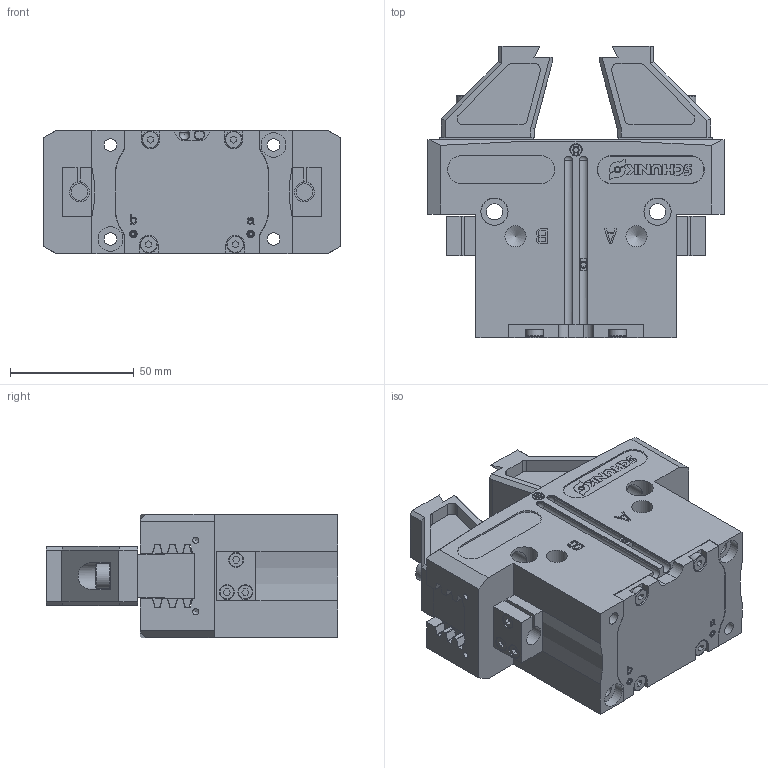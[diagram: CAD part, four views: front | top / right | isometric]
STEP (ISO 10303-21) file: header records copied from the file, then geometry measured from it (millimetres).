
FILE_DESCRIPTION (( 'STEP AP214' ), '1' );
FILE_NAME ('AS-96_WEBSITE.step', '2025-08-11T09:04:36', ( '' ), ( '' ), 'SwSTEP 2.0', 'SolidWorks 2024', '' );
FILE_SCHEMA (( 'AUTOMOTIVE_DESIGN' ));
Length unit declared in the file: inch
Products named in the file (11): SCHUNK-9949504 limit stop for MMS-P_WEBSITE; AS-96_WEBSITE; SCHUNK-5524036-Grundbacke PGN-plus-P 100-2_WEBSITE; SCHUNK-5524030 Deckel-PGN-plus-P 100_WEBSITE; SCHUNK-0318547 PGN-plus-P 100-2-AS, 000_WEBSITE; SCHUNK-5503506 Halter fuer NHS KL03_WEBSITE; AS-96-1_WEBSITE; SCHUNK-5524162 Abdeckblech-PGN-plus-P 100_WEBSITE; SCHUNK-9905503 Typenschild 11x43x0.3_WEBSITE; SCHUNK-5524039 Gehaeuse-PGN-plus-P 100-GKS_WEBSITE; M6X22MM.SHCS_WEBSITE_91290A328
Assembly tree (16 placements, depth 3):
  AS-96_WEBSITE
    SCHUNK-0318547 PGN-plus-P 100-2-AS, 000_WEBSITE
      SCHUNK-5524039 Gehaeuse-PGN-plus-P 100-GKS_WEBSITE
      SCHUNK-5524162 Abdeckblech-PGN-plus-P 100_WEBSITE
      SCHUNK-5524030 Deckel-PGN-plus-P 100_WEBSITE
      SCHUNK-9949504 limit stop for MMS-P_WEBSITE
      SCHUNK-9905503 Typenschild 11x43x0.3_WEBSITE
      SCHUNK-5503506 Halter fuer NHS KL03_WEBSITE  x2
      SCHUNK-5524036-Grundbacke PGN-plus-P 100-2_WEBSITE  x2
    M6X22MM.SHCS_WEBSITE_91290A328  x4
    AS-96-1_WEBSITE  x2
Bounding box: 120 x 118 x 50 mm (x, y, z)
Volume: 388450.2 mm3; surface area: 127729.8 mm2
Topology: 23 solids, 23 shells, 1729 faces, 4672 edges, 3088 vertices
Faces by surface type: plane 1077, cylinder 568, cone 74, torus 8, sphere 2
Full cylindrical faces by diameter (mm): 1.776 x1, 2.459 x12, 2.5 x1, 3 x6, 4.917 x4, 5 x8, 5.1 x4, 5.5 x10, 6 x10, 6.6 x2, 6.604 x4, 6.8 x2, 7 x8, 8.2 x2, 8.566 x2, 9 x6, 9.6 x4, 10 x12, 10.02 x4, 10.998 x2, 11 x2
Entity records: 52206 total; most frequent: CARTESIAN_POINT 7322, DIRECTION 6351, ORIENTED_EDGE 6178, EDGE_CURVE 3089, VECTOR 2205, LINE 2205, VERTEX_POINT 2122, AXIS2_PLACEMENT_3D 2073
